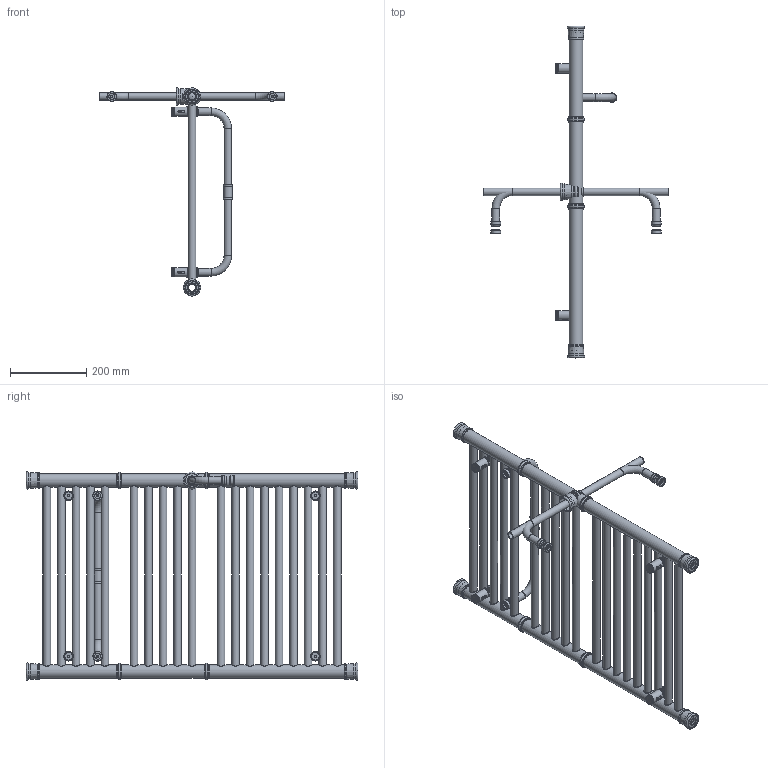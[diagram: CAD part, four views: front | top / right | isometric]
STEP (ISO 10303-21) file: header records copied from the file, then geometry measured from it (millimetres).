
FILE_DESCRIPTION( ( 'Unknown' ), '1' );
FILE_NAME( 'D:/Alplast sp. j/Witryna zespoBu - Projekty/Archiwum/Grzejniki Archiwum/Projekty/DESIGN PROGRAM/RETRO/Retro A3-500.stp', 'Unknown', ( 'Unknown' ), ( 'Unknown' ), 'PSStep 10.1', 'Unknown', ' ' );
FILE_SCHEMA( ( 'AUTOMOTIVE_DESIGN { 1 0 10303 214 1 1 1 1 }' ) );
Length unit declared in the file: millimetre
Products named in the file (50): Assem1; katurek z wkrêtem do mocowania do  sciany; suszarka Retro 500; mocowanie do œciany; Katurek fi 25 v4 ; wkrêt do katurka fi 25 v4; detal-v3. par; element do suszarki do mocowania; element do suszarki do mocowania-oa0; tulejka do suszarki ; tulejka do suszarki -oa1; element do suszarki do mocowania ty³; element do suszarki do mocowania ty³-oa2; suszarka 500; tulejka do mocowania grzejnika v3; mocowanie do grzejnika v3; zaœlepka do mocowania do œciany; kolektor Retro A3; kolektor Retro A3-oa3; pierœcieñ na rurê fi 36 w¹ski; pierœcieñ na rurê fi 36 w¹ski-oa4; pierœcieñ na rurê fi 36 w¹ski-oa5; pierœcieñ na rurê fi 36 w¹ski-oa6; Zaslepka fi 35 z gwintem ; Zaslepka fi 35 z gwintem -oa7; Zaslepka fi 35 z gwintem -oa8; Zaslepka fi 35 z gwintem -oa9; pierœcieñ ozdobny 1; pierœcieñ ozdobny 1-oa10; pierœcieñ ozdobny 1-oa11; pierœcieñ ozdobny 1-oa12; Kana³ Prosty Retro 500; Kana³ Prosty Retro 500-oa13; Kana³ Prosty Retro 500-oa14; Kana³ Prosty Retro 500-oa15; Kana³ Prosty Retro 500-oa16; Kana³ Prosty Retro 500-oa17; Kana³ Prosty Retro 500-oa18; Kana³ Prosty Retro 500-oa19; Kana³ Prosty Retro 500-oa20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
Bounding box: 484 x 868 x 544.91 mm (x, y, z)
Volume: 2216717.5 mm3; surface area: 3318997 mm2
Topology: 122 solids, 122 shells, 1024 faces, 2068 edges, 1322 vertices
Faces by surface type: cylinder 418, plane 302, torus 201, cone 84, bspline 12, sphere 7
Full cylindrical faces by diameter (mm): 4.917 x24, 5.9 x6, 6 x27, 6.3 x6, 6.4 x6, 15.5 x6, 17.5 x6, 17.6 x47, 18.631 x8, 20 x47, 20.3 x3, 20.5 x76, 20.6 x6, 21.15 x6, 21.9 x18, 22.8 x3, 24.5 x6, 25 x21, 25.25 x6, 25.3 x6, 32 x8, 32.4 x4, 35 x12, 35.3 x8, 35.5 x8, 39 x16, 41.15 x16
Entity records: 19252 total; most frequent: CARTESIAN_POINT 8742, DIRECTION 1498, ORIENTED_EDGE 830, EDGE_LOOP 812, AXIS2_PLACEMENT_3D 745, FACE_OUTER_BOUND 601, EDGE_CURVE 415, VERTEX_POINT 412
